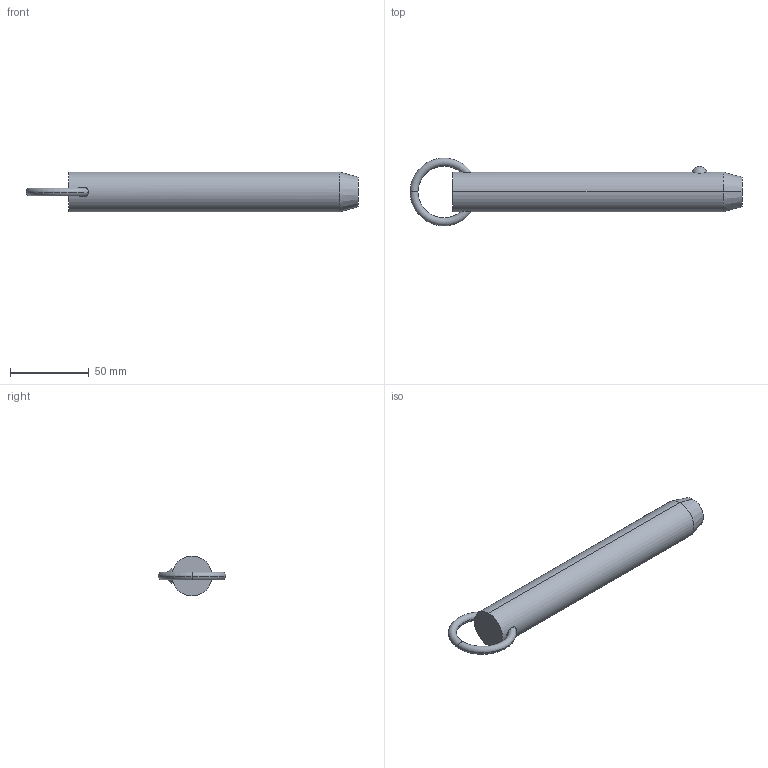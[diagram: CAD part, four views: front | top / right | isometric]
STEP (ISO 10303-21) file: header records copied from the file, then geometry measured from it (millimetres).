
FILE_DESCRIPTION (( 'STEP AP203' ), '1' );
FILE_NAME ('33010.W1055.step', '2024-11-01T10:48:28', ( '' ), ( '' ), 'SwSTEP 2.0', 'SolidWorks 2019', '' );
FILE_SCHEMA (( 'CONFIG_CONTROL_DESIGN' ));
Length unit declared in the file: millimetre
Products named in the file (3): 33010.W1055; Part2_33010.W1055; Part1_33010.W1055
Assembly tree (2 placements, depth 2):
  33010.W1055
    Part1_33010.W1055
    Part2_33010.W1055
Bounding box: 211.28 x 43.18 x 25.4 mm (x, y, z)
Volume: 93645.9 mm3; surface area: 17819 mm2
Topology: 2 solids, 2 shells, 18 faces, 37 edges, 22 vertices
Faces by surface type: torus 8, plane 4, sphere 2, cone 2, cylinder 2
Entity records: 975 total; most frequent: CARTESIAN_POINT 280, DIRECTION 100, ORIENTED_EDGE 74, AXIS2_PLACEMENT_3D 48, EDGE_CURVE 37, PERSON_AND_ORGANIZATION 26, CIRCLE 25, VERTEX_POINT 22
